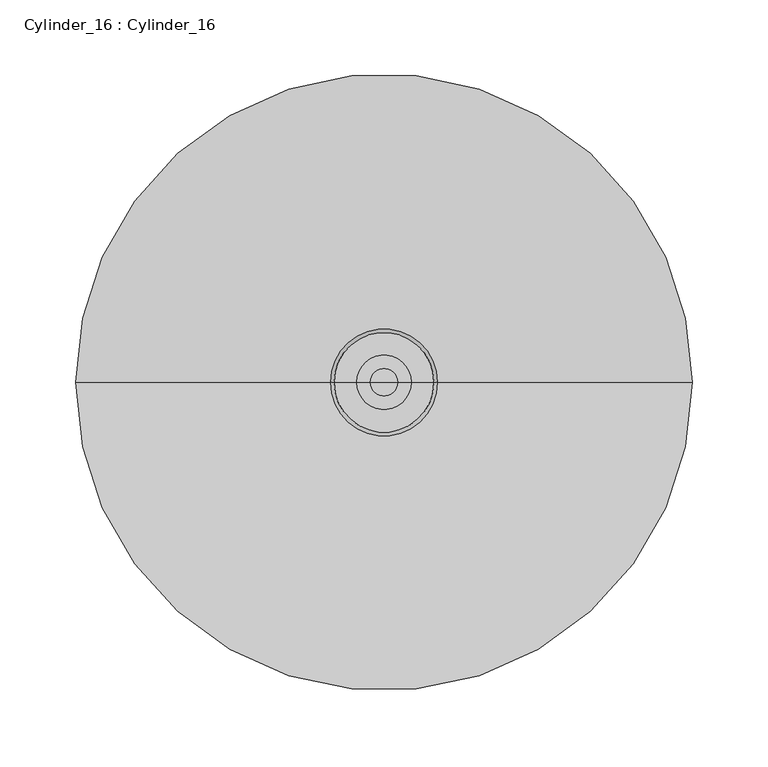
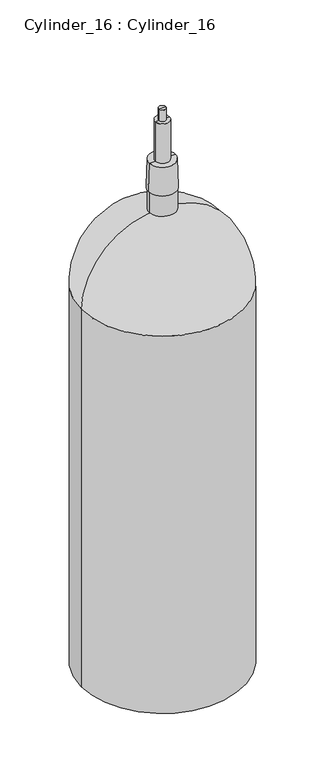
"""IFC4 building model written with IfcOpenShell, lengths in millimetres: alarm geometry, Cylinder_16 : Cylinder_16."""

from ifc_helpers import new_model, si_unit, point, frame, origin, place, context, project, spatial, polyline, circle_curve, ellipse_curve, trimmed, source, transform, mapped, element, save
from ifc_brep_helpers import plane_surface, cylinder_surface, revolved_surface, advanced_brep


def cylinder_16_cylinder_16_b4ece049(model_context):
    return source(origin(), model_context, "Body", "AdvancedBrep", [
        advanced_brep(
        [(9.0219829, 0.0, 1773.6797527), (-9.0219829, 0.0, 1773.6797527), (-9.0219829, 0.0, 1803.7871447), (9.0219829, 0.0, 1803.7871447), (17.9261315, 0.0, 1773.6797527), (-17.9261315, 0.0, 1773.6797527), (17.9261315, 0.0, 1669.0464047), (-17.9261315, 0.0, 1669.0464047), (32.9524445, 0.0, 1669.0464047), (-32.9524445, 0.0, 1669.0464047), (35.2648942, 0.0, 1594.5650907), (-35.2648942, 0.0, 1594.5650907), (33.1140302, 0.0, 1594.5650907), (-33.1140302, 0.0, 1594.5650907), (33.1817509, 0.0, 1538.8781327), (-33.1817509, 0.0, 1538.8781327), (0.0, 0.0, 1538.8781327), (0.0, 0.0, 1803.7871447)],
        [
            (0, 1, circle_curve(frame((0.0, 0.0, 1773.6797527), z_axis=(0.0, 0.0, 1.0), x_axis=(-1.0, 0.0, 0.0)), 9.0219829)),
            (1, 2),
            (2, 3, circle_curve(frame((0.0, 0.0, 1803.7871447), z_axis=(0.0, 0.0, -1.0), x_axis=(-1.0, 0.0, 0.0)), 9.0219829)),
            (3, 0),
            (1, 0, circle_curve(frame((0.0, 0.0, 1773.6797527), z_axis=(0.0, 0.0, 1.0), x_axis=(-1.0, 0.0, 0.0)), 9.0219829)),
            (3, 2, circle_curve(frame((0.0, 0.0, 1803.7871447), z_axis=(0.0, 0.0, -1.0), x_axis=(-1.0, 0.0, 0.0)), 9.0219829)),
            (4, 5, circle_curve(frame((0.0, 0.0, 1773.6797527), z_axis=(0.0, 0.0, 1.0), x_axis=(-1.0, 0.0, 0.0)), 17.9261315)),
            (5, 1),
            (0, 4),
            (5, 4, circle_curve(frame((0.0, 0.0, 1773.6797527), z_axis=(0.0, 0.0, 1.0), x_axis=(-1.0, 0.0, 0.0)), 17.9261315)),
            (6, 7, circle_curve(frame((0.0, 0.0, 1669.0464047), z_axis=(0.0, 0.0, 1.0), x_axis=(-1.0, 0.0, 0.0)), 17.9261315)),
            (7, 5),
            (4, 6),
            (7, 6, circle_curve(frame((0.0, 0.0, 1669.0464047), z_axis=(0.0, 0.0, 1.0), x_axis=(-1.0, 0.0, 0.0)), 17.9261315)),
            (8, 9, circle_curve(frame((0.0, 0.0, 1669.0464047), z_axis=(0.0, 0.0, 1.0), x_axis=(-1.0, 0.0, 0.0)), 32.9524445)),
            (9, 7),
            (6, 8),
            (9, 8, circle_curve(frame((0.0, 0.0, 1669.0464047), z_axis=(0.0, 0.0, 1.0), x_axis=(-1.0, 0.0, 0.0)), 32.9524445)),
            (10, 11, circle_curve(frame((0.0, 0.0, 1594.5650907), z_axis=(0.0, 0.0, 1.0), x_axis=(-1.0, 0.0, 0.0)), 35.2648942)),
            (11, 9),
            (8, 10),
            (11, 10, circle_curve(frame((0.0, 0.0, 1594.5650907), z_axis=(0.0, 0.0, 1.0), x_axis=(-1.0, 0.0, 0.0)), 35.2648942)),
            (12, 13, circle_curve(frame((0.0, 0.0, 1594.5650907), z_axis=(0.0, 0.0, 1.0), x_axis=(-1.0, 0.0, 0.0)), 33.1140302)),
            (13, 11),
            (10, 12),
            (13, 12, circle_curve(frame((0.0, 0.0, 1594.5650907), z_axis=(0.0, 0.0, 1.0), x_axis=(-1.0, 0.0, 0.0)), 33.1140302)),
            (14, 15, circle_curve(frame((0.0, 0.0, 1538.8781327), z_axis=(0.0, 0.0, 1.0), x_axis=(-1.0, 0.0, 0.0)), 33.1817509)),
            (15, 13),
            (12, 14),
            (15, 14, circle_curve(frame((0.0, 0.0, 1538.8781327), z_axis=(0.0, 0.0, 1.0), x_axis=(-1.0, 0.0, 0.0)), 33.1817509)),
            (16, 15),
            (14, 16),
            (2, 17),
            (17, 3),
        ],
        [
            cylinder_surface(frame((0.0, 0.0, 1881.8868055), z_axis=(0.0, 0.0, -1.0), x_axis=(-1.0, 0.0, 0.0)), 9.0219829),
            plane_surface(frame((0.0, 0.0, 1773.6797527), z_axis=(0.0, 0.0, 1.0), x_axis=(-1.0, 0.0, 0.0))),
            cylinder_surface(frame((0.0, 0.0, 1881.8868055), z_axis=(0.0, 0.0, -1.0), x_axis=(-1.0, 0.0, 0.0)), 17.9261315),
            plane_surface(frame((0.0, 0.0, 1669.0464047), z_axis=(0.0, 0.0, 1.0), x_axis=(-1.0, 0.0, 0.0))),
            revolved_surface(polyline([(-32.9524445, 0.0, 1669.0464047), (-35.2648942, 0.0, 1594.5650907)]), (0.0, 0.0, 1881.8868055), (0.0, 0.0, -1.0)),
            plane_surface(frame((0.0, 0.0, 1594.5650907), z_axis=(0.0, 0.0, -1.0), x_axis=(-1.0, 0.0, 0.0))),
            cylinder_surface(frame((0.0, 0.0, 1881.8868055), z_axis=(0.0, 0.0, -1.0), x_axis=(-1.0, 0.0, 0.0)), 33.1817509),
            plane_surface(frame((0.0, 0.0, 1538.8781327), z_axis=(0.0, 0.0, -1.0), x_axis=(-1.0, 0.0, 0.0))),
            plane_surface(frame((0.0, 0.0, 1803.7871447), z_axis=(0.0, 0.0, 1.0), x_axis=(-1.0, 0.0, 0.0))),
        ],
        [
            (0, [[1, 2, 3, 4]]),
            (0, [[5, -4, 6, -2]]),
            (1, [[7, 8, -1, 9]]),
            (1, [[10, -9, -5, -8]]),
            (2, [[11, 12, -7, 13]]),
            (2, [[14, -13, -10, -12]]),
            (3, [[15, 16, -11, 17]]),
            (3, [[18, -17, -14, -16]]),
            (4, [[19, 20, -15, 21]]),
            (4, [[22, -21, -18, -20]]),
            (5, [[23, 24, -19, 25]]),
            (5, [[26, -25, -22, -24]]),
            (6, [[27, 28, -23, 29]]),
            (6, [[30, -29, -26, -28]]),
            (7, [[31, -27, 32]]),
            (7, [[-32, -30, -31]]),
            (8, [[-3, 33, 34]]),
            (8, [[-6, -34, -33]]),
        ],
    ),
        advanced_brep(
        [(203.2, 0.0, 338.8781327), (-203.2, 0.0, 338.8781327), (-203.2, 0.0, 1340.0), (203.2, 0.0, 1340.0), (0.0, 0.0, 338.8781327), (0.0, 0.0, 1538.8781327)],
        [
            (0, 1, circle_curve(frame((0.0, 0.0, 338.8781327), z_axis=(0.0, 0.0, 1.0), x_axis=(-1.0, 0.0, 0.0)), 203.2)),
            (1, 2),
            (2, 3, circle_curve(frame((0.0, 0.0, 1340.0), z_axis=(0.0, 0.0, -1.0), x_axis=(-1.0, 0.0, 0.0)), 203.2)),
            (3, 0),
            (1, 0, circle_curve(frame((0.0, 0.0, 338.8781327), z_axis=(0.0, 0.0, 1.0), x_axis=(-1.0, 0.0, 0.0)), 203.2)),
            (3, 2, circle_curve(frame((0.0, 0.0, 1340.0), z_axis=(0.0, 0.0, -1.0), x_axis=(-1.0, 0.0, 0.0)), 203.2)),
            (4, 1),
            (0, 4),
            (2, 5, circle_curve(frame((-4.2759063, 0.0, 1340.0), z_axis=(0.0, 1.0, 0.0), x_axis=(1.0, 0.0, 0.0)), 198.9240937)),
            (5, 3, circle_curve(frame((4.2759063, 0.0, 1340.0), z_axis=(0.0, 1.0, 0.0), x_axis=(-1.0, 0.0, 0.0)), 198.9240937)),
        ],
        [
            cylinder_surface(frame((0.0, 0.0, 1538.8781327), z_axis=(0.0, 0.0, -1.0), x_axis=(-1.0, 0.0, 0.0)), 203.2),
            plane_surface(frame((0.0, 0.0, 338.8781327), z_axis=(0.0, 0.0, -1.0), x_axis=(-1.0, 0.0, 0.0))),
            revolved_surface(trimmed(ellipse_curve(frame((-4.2759063, 0.0, 1340.0), z_axis=(0.0, -1.0, 0.0), x_axis=(1.0, 0.0, 0.0)), 198.9240937, 198.9240937), [point((0.0, 0.0, 1538.8781327))], [point((-203.2, 0.0, 1340.0))], True, "CARTESIAN"), (0.0, 0.0, 1538.8781327), (0.0, 0.0, -1.0)),
        ],
        [
            (0, [[1, 2, 3, 4]]),
            (0, [[5, -4, 6, -2]]),
            (1, [[7, -1, 8]]),
            (1, [[-8, -5, -7]]),
            (2, [[-3, 9, 10]]),
            (2, [[-6, -10, -9]]),
        ],
    ),
    ])


if __name__ == "__main__":
    model = new_model("IFC4")
    model_context = context("Model", 3, world=origin())
    ifc_project = project(units=[si_unit("LENGTHUNIT", "METRE", prefix="MILLI")], contexts=[model_context])
    site = spatial("IfcSite", under=ifc_project)
    building = spatial("IfcBuilding", under=site)
    placement = place(None, origin())
    cylinder_16_cylinder_16_shape = cylinder_16_cylinder_16_b4ece049(model_context)
    element("IfcAlarm", 1, ObjectType="Cylinder_16 : Cylinder_16", at=placement, inside=building, context=model_context, shape_type="MappedRepresentation", body=[
        mapped(cylinder_16_cylinder_16_shape, transform((0.0, 0.0, 0.0), x_axis=(1.0, 0.0, 0.0), y_axis=(0.0, 1.0, 0.0), z_axis=(0.0, 0.0, 1.0))),
    ])
    save(model, "model.ifc")
